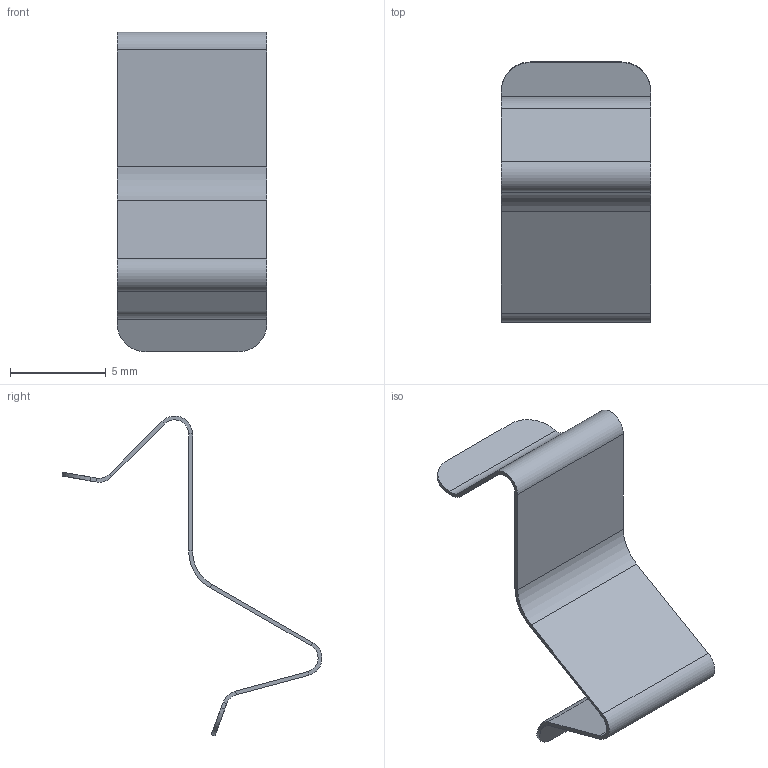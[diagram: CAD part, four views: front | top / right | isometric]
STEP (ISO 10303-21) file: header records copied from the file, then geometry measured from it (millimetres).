
FILE_DESCRIPTION (( 'STEP AP203' ), '1' );
FILE_NAME ('99901000_Feder Nut 8_0.step', '2019-11-28T12:23:24', ( '' ), ( '' ), 'SwSTEP 2.0', 'SolidWorks 2017', '' );
FILE_SCHEMA (( 'CONFIG_CONTROL_DESIGN' ));
Length unit declared in the file: millimetre
Products named in the file (1): 99901000_Feder Nut 8_0
Bounding box: 7.8 x 13.58 x 16.72 mm (x, y, z)
Volume: 48.6 mm3; surface area: 501.1 mm2
Topology: 1 solids, 1 shells, 50 faces, 104 edges, 56 vertices
Faces by surface type: plane 36, cylinder 14
Entity records: 1353 total; most frequent: DIRECTION 234, CARTESIAN_POINT 211, ORIENTED_EDGE 208, EDGE_CURVE 104, AXIS2_PLACEMENT_3D 79, LINE 76, VECTOR 76, VERTEX_POINT 56
